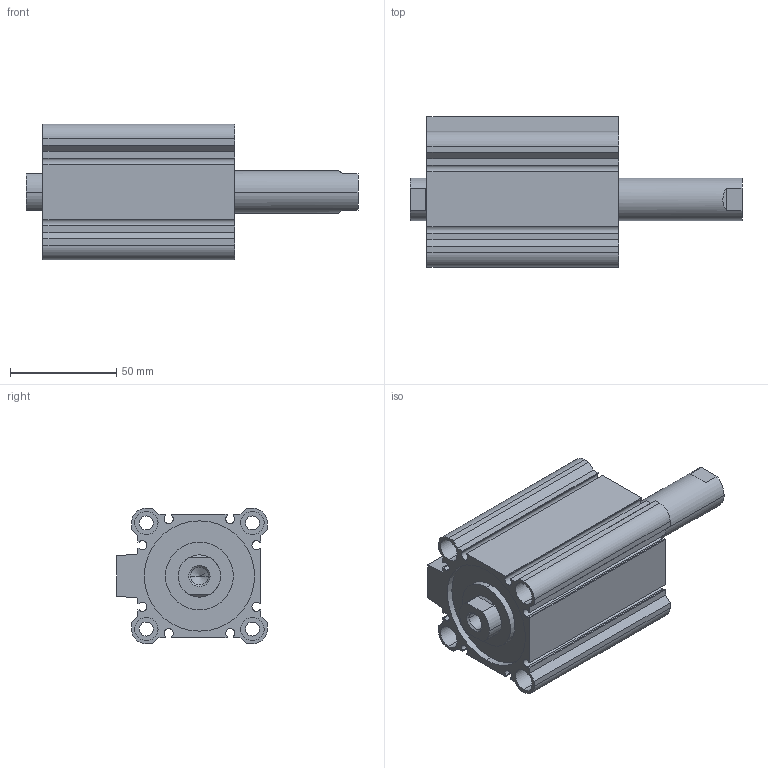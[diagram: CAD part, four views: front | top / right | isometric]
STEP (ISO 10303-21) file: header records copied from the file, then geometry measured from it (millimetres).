
FILE_DESCRIPTION (( 'STEP AP203' ), '1' );
FILE_NAME ('CCMB50-50F-P.STEP', '2020-08-05T11:44:28', ( '' ), ( '' ), 'SwSTEP 2.0', 'SolidWorks 2019', '' );
FILE_SCHEMA (( 'CONFIG_CONTROL_DESIGN' ));
Length unit declared in the file: millimetre
Products named in the file (1): CCMB50-50F-P
Bounding box: 156.5 x 71 x 64 mm (x, y, z)
Volume: 239392.9 mm3; surface area: 79675.6 mm2
Topology: 2 solids, 2 shells, 164 faces, 414 edges, 270 vertices
Faces by surface type: plane 78, cylinder 74, cone 12
Entity records: 5029 total; most frequent: DIRECTION 896, CARTESIAN_POINT 857, ORIENTED_EDGE 820, EDGE_CURVE 410, AXIS2_PLACEMENT_3D 325, VERTEX_POINT 270, VECTOR 246, LINE 246
